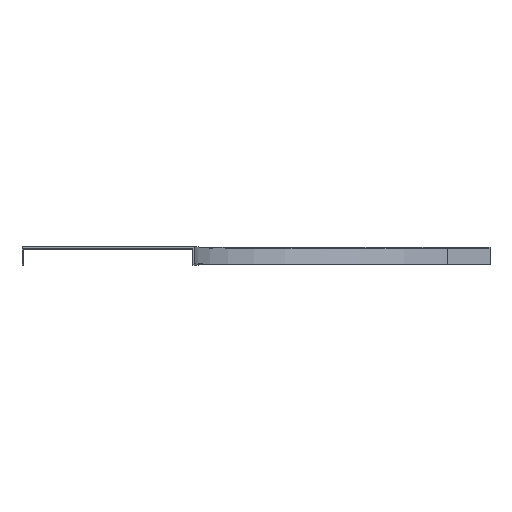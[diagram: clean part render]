
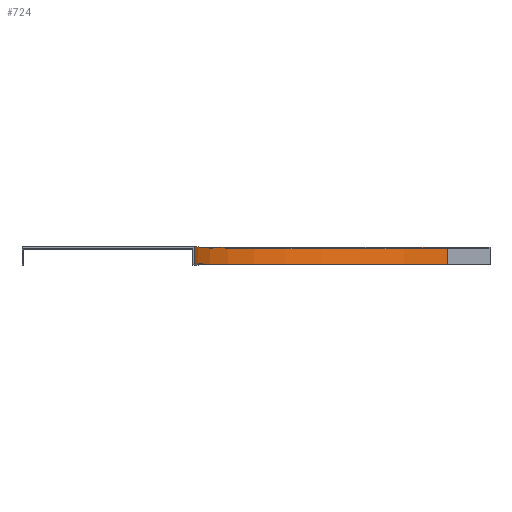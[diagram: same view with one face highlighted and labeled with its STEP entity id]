
A CAD part, top view. The second image highlights one B-rep face of the part: STEP entity #724.
In plain terms, the highlighted cylindrical face has radius 298.5 mm (diameter 597 mm), a partial arc.
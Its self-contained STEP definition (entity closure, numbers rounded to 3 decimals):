
#2 = DIRECTION ( 'NONE',  ( 0., 1., 0. ) ) ;
#5 = CARTESIAN_POINT ( 'NONE',  ( 0., -20., 0. ) ) ;
#33 = AXIS2_PLACEMENT_3D ( 'NONE', #5, #680, #1047 ) ;
#79 = LINE ( 'NONE', #607, #805 ) ;
#142 = EDGE_CURVE ( 'NONE', #1018, #162, #179, .T. ) ;
#162 = VERTEX_POINT ( 'NONE', #471 ) ;
#170 = ORIENTED_EDGE ( 'NONE', *, *, #432, .T. ) ;
#179 = CIRCLE ( 'NONE', #966, 298.5 ) ;
#197 = DIRECTION ( 'NONE',  ( 0., -1., 0. ) ) ;
#209 = DIRECTION ( 'NONE',  ( 0., 0., -1. ) ) ;
#225 = CARTESIAN_POINT ( 'NONE',  ( 0., 0., -298.5 ) ) ;
#250 = EDGE_CURVE ( 'NONE', #468, #760, #943, .T. ) ;
#263 = ORIENTED_EDGE ( 'NONE', *, *, #250, .F. ) ;
#322 = AXIS2_PLACEMENT_3D ( 'NONE', #968, #1075, #640 ) ;
#338 = EDGE_LOOP ( 'NONE', ( #263, #728, #1065, #170 ) ) ;
#432 = EDGE_CURVE ( 'NONE', #162, #760, #79, .T. ) ;
#468 = VERTEX_POINT ( 'NONE', #616 ) ;
#471 = CARTESIAN_POINT ( 'NONE',  ( 0., -20., -298.5 ) ) ;
#533 = VECTOR ( 'NONE', #872, 1000. ) ;
#607 = CARTESIAN_POINT ( 'NONE',  ( 0., -20., -298.5 ) ) ;
#616 = CARTESIAN_POINT ( 'NONE',  ( -298.5, 0., 0. ) ) ;
#630 = CARTESIAN_POINT ( 'NONE',  ( 0., -20., 0. ) ) ;
#640 = DIRECTION ( 'NONE',  ( 0., 0., -1. ) ) ;
#680 = DIRECTION ( 'NONE',  ( 0., 1., 0. ) ) ;
#701 = FACE_OUTER_BOUND ( 'NONE', #338, .T. ) ;
#724 = ADVANCED_FACE ( 'NONE', ( #701 ), #1124, .F. ) ;
#728 = ORIENTED_EDGE ( 'NONE', *, *, #827, .F. ) ;
#760 = VERTEX_POINT ( 'NONE', #225 ) ;
#782 = LINE ( 'NONE', #1055, #533 ) ;
#805 = VECTOR ( 'NONE', #2, 1000. ) ;
#811 = CARTESIAN_POINT ( 'NONE',  ( -298.5, -20., 0. ) ) ;
#827 = EDGE_CURVE ( 'NONE', #1018, #468, #782, .T. ) ;
#872 = DIRECTION ( 'NONE',  ( 0., 1., 0. ) ) ;
#943 = CIRCLE ( 'NONE', #322, 298.5 ) ;
#966 = AXIS2_PLACEMENT_3D ( 'NONE', #630, #197, #209 ) ;
#968 = CARTESIAN_POINT ( 'NONE',  ( 0., 0., 0. ) ) ;
#1018 = VERTEX_POINT ( 'NONE', #811 ) ;
#1047 = DIRECTION ( 'NONE',  ( 0., 0., 1. ) ) ;
#1055 = CARTESIAN_POINT ( 'NONE',  ( -298.5, -20., 0. ) ) ;
#1065 = ORIENTED_EDGE ( 'NONE', *, *, #142, .T. ) ;
#1075 = DIRECTION ( 'NONE',  ( 0., -1., 0. ) ) ;
#1124 = CYLINDRICAL_SURFACE ( 'NONE', #33, 298.5 ) ;
